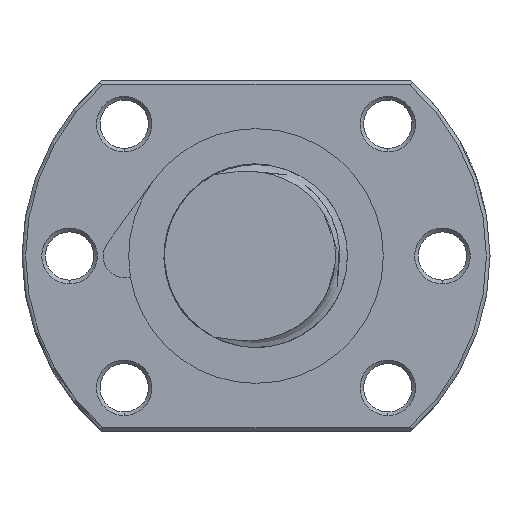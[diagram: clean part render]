
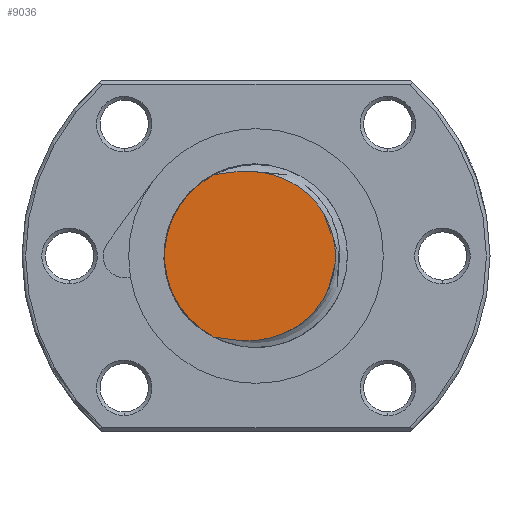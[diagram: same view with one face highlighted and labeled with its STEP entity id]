
A CAD part, left-side view. The second image highlights one B-rep face of the part: STEP entity #9036.
In plain terms, the highlighted planar face has unit normal (-1, 0, 0).
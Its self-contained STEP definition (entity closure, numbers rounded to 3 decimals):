
#8753 = EDGE_CURVE ( 'NONE', #8982, #8976, #16914, .T. ) ;
#8976 = VERTEX_POINT ( 'NONE', #18925 ) ;
#8982 = VERTEX_POINT ( 'NONE', #19309 ) ;
#9036 = ADVANCED_FACE ( 'NONE', ( #19601 ), #19598, .F. ) ;
#9037 = EDGE_LOOP ( 'NONE', ( #9038, #9039 ) ) ;
#9038 = ORIENTED_EDGE ( 'NONE', *, *, #8753, .F. ) ;
#9039 = ORIENTED_EDGE ( 'NONE', *, *, #9040, .T. ) ;
#9040 = EDGE_CURVE ( 'NONE', #8982, #8976, #19639, .T. ) ;
#16910 = DIRECTION ( 'NONE',  ( 0., 1., 0. ) ) ;
#16911 = DIRECTION ( 'NONE',  ( 1., 0., 0. ) ) ;
#16912 = CARTESIAN_POINT ( 'NONE',  ( -75., 0., 0. ) ) ;
#16913 = AXIS2_PLACEMENT_3D ( 'NONE', #16912, #16911, #16910 ) ;
#16914 = CIRCLE ( 'NONE', #16913, 12.5 ) ;
#18925 = CARTESIAN_POINT ( 'NONE',  ( -75., 5.78, 11.084 ) ) ;
#19309 = CARTESIAN_POINT ( 'NONE',  ( -75., 5.782, -11.082 ) ) ;
#19484 = CARTESIAN_POINT ( 'NONE',  ( -75., 5.78, 11.084 ) ) ;
#19485 = CARTESIAN_POINT ( 'NONE',  ( -75., 5.538, 11.102 ) ) ;
#19486 = CARTESIAN_POINT ( 'NONE',  ( -75., 5.3, 11.145 ) ) ;
#19487 = CARTESIAN_POINT ( 'NONE',  ( -75., 4.823, 11.228 ) ) ;
#19488 = CARTESIAN_POINT ( 'NONE',  ( -75., 4.585, 11.271 ) ) ;
#19489 = CARTESIAN_POINT ( 'NONE',  ( -75., 3.87, 11.394 ) ) ;
#19490 = CARTESIAN_POINT ( 'NONE',  ( -75., 3.392, 11.466 ) ) ;
#19491 = CARTESIAN_POINT ( 'NONE',  ( -75., 1.955, 11.617 ) ) ;
#19492 = CARTESIAN_POINT ( 'NONE',  ( -75., 0.992, 11.636 ) ) ;
#19493 = CARTESIAN_POINT ( 'NONE',  ( -75., -0.463, 11.502 ) ) ;
#19494 = CARTESIAN_POINT ( 'NONE',  ( -75., -0.945, 11.431 ) ) ;
#19495 = CARTESIAN_POINT ( 'NONE',  ( -75., -1.891, 11.234 ) ) ;
#19496 = CARTESIAN_POINT ( 'NONE',  ( -75., -2.357, 11.108 ) ) ;
#19497 = CARTESIAN_POINT ( 'NONE',  ( -75., -3.274, 10.804 ) ) ;
#19498 = CARTESIAN_POINT ( 'NONE',  ( -75., -3.727, 10.624 ) ) ;
#19499 = CARTESIAN_POINT ( 'NONE',  ( -75., -4.609, 10.209 ) ) ;
#19500 = CARTESIAN_POINT ( 'NONE',  ( -75., -5.034, 9.978 ) ) ;
#19501 = CARTESIAN_POINT ( 'NONE',  ( -75., -5.851, 9.465 ) ) ;
#19502 = CARTESIAN_POINT ( 'NONE',  ( -75., -6.243, 9.184 ) ) ;
#19503 = CARTESIAN_POINT ( 'NONE',  ( -75., -6.994, 8.572 ) ) ;
#19504 = CARTESIAN_POINT ( 'NONE',  ( -75., -7.354, 8.238 ) ) ;
#19505 = CARTESIAN_POINT ( 'NONE',  ( -75., -8.359, 7.186 ) ) ;
#19506 = CARTESIAN_POINT ( 'NONE',  ( -75., -8.934, 6.413 ) ) ;
#19507 = CARTESIAN_POINT ( 'NONE',  ( -75., -9.648, 5.138 ) ) ;
#19508 = CARTESIAN_POINT ( 'NONE',  ( -75., -9.859, 4.697 ) ) ;
#19509 = CARTESIAN_POINT ( 'NONE',  ( -75., -10.22, 3.8 ) ) ;
#19510 = CARTESIAN_POINT ( 'NONE',  ( -75., -10.371, 3.342 ) ) ;
#19511 = CARTESIAN_POINT ( 'NONE',  ( -75., -10.616, 2.408 ) ) ;
#19512 = CARTESIAN_POINT ( 'NONE',  ( -75., -10.71, 1.928 ) ) ;
#19513 = CARTESIAN_POINT ( 'NONE',  ( -75., -10.835, 0.962 ) ) ;
#19514 = CARTESIAN_POINT ( 'NONE',  ( -75., -10.866, 0.479 ) ) ;
#19515 = CARTESIAN_POINT ( 'NONE',  ( -75., -10.865, -0.485 ) ) ;
#19516 = CARTESIAN_POINT ( 'NONE',  ( -75., -10.834, -0.966 ) ) ;
#19517 = CARTESIAN_POINT ( 'NONE',  ( -75., -10.709, -1.928 ) ) ;
#19518 = CARTESIAN_POINT ( 'NONE',  ( -75., -10.616, -2.41 ) ) ;
#19519 = CARTESIAN_POINT ( 'NONE',  ( -75., -10.248, -3.815 ) ) ;
#19520 = CARTESIAN_POINT ( 'NONE',  ( -75., -9.888, -4.709 ) ) ;
#19521 = CARTESIAN_POINT ( 'NONE',  ( -75., -9.173, -5.984 ) ) ;
#19522 = CARTESIAN_POINT ( 'NONE',  ( -75., -8.908, -6.394 ) ) ;
#19523 = CARTESIAN_POINT ( 'NONE',  ( -75., -8.333, -7.169 ) ) ;
#19587 = DIRECTION ( 'NONE',  ( 0., 0., -1. ) ) ;
#19588 = DIRECTION ( 'NONE',  ( 1., 0., 0. ) ) ;
#19597 = CARTESIAN_POINT ( 'NONE',  ( -75., 0., 0. ) ) ;
#19598 = PLANE ( 'NONE',  #19600 ) ;
#19600 = AXIS2_PLACEMENT_3D ( 'NONE', #19597, #19588, #19587 ) ;
#19601 = FACE_OUTER_BOUND ( 'NONE', #9037, .T. ) ;
#19619 = CARTESIAN_POINT ( 'NONE',  ( -75., -8.024, -7.538 ) ) ;
#19620 = CARTESIAN_POINT ( 'NONE',  ( -75., -7.359, -8.236 ) ) ;
#19621 = CARTESIAN_POINT ( 'NONE',  ( -75., -7.003, -8.566 ) ) ;
#19622 = CARTESIAN_POINT ( 'NONE',  ( -75., -6.245, -9.183 ) ) ;
#19623 = CARTESIAN_POINT ( 'NONE',  ( -75., -5.851, -9.464 ) ) ;
#19624 = CARTESIAN_POINT ( 'NONE',  ( -75., -4.628, -10.231 ) ) ;
#19625 = CARTESIAN_POINT ( 'NONE',  ( -75., -3.758, -10.642 ) ) ;
#19626 = CARTESIAN_POINT ( 'NONE',  ( -75., -1.907, -11.261 ) ) ;
#19627 = CARTESIAN_POINT ( 'NONE',  ( -75., -0.961, -11.453 ) ) ;
#19628 = CARTESIAN_POINT ( 'NONE',  ( -75., 0.477, -11.589 ) ) ;
#19629 = CARTESIAN_POINT ( 'NONE',  ( -75., 0.959, -11.608 ) ) ;
#19630 = CARTESIAN_POINT ( 'NONE',  ( -75., 1.932, -11.599 ) ) ;
#19631 = CARTESIAN_POINT ( 'NONE',  ( -75., 2.419, -11.569 ) ) ;
#19632 = CARTESIAN_POINT ( 'NONE',  ( -75., 3.385, -11.468 ) ) ;
#19633 = CARTESIAN_POINT ( 'NONE',  ( -75., 3.865, -11.396 ) ) ;
#19634 = CARTESIAN_POINT ( 'NONE',  ( -75., 4.583, -11.271 ) ) ;
#19635 = CARTESIAN_POINT ( 'NONE',  ( -75., 4.822, -11.227 ) ) ;
#19636 = CARTESIAN_POINT ( 'NONE',  ( -75., 5.301, -11.143 ) ) ;
#19637 = CARTESIAN_POINT ( 'NONE',  ( -75., 5.54, -11.101 ) ) ;
#19638 = CARTESIAN_POINT ( 'NONE',  ( -75., 5.782, -11.082 ) ) ;
#19639 = B_SPLINE_CURVE_WITH_KNOTS ( 'NONE', 3,
 ( #19638, #19637, #19636, #19635, #19634, #19633, #19632, #19631, #19630, #19629, #19628, #19627, #19626, #19625, #19624, #19623, #19622, #19621, #19620, #19619, #19523, #19522, #19521, #19520, #19519, #19518, #19517, #19516, #19515, #19514, #19513, #19512, #19511, #19510, #19509, #19508, #19507, #19506, #19505, #19504, #19503, #19502, #19501, #19500, #19499, #19498, #19497, #19496, #19495, #19494, #19493, #19492, #19491, #19490, #19489, #19488, #19487, #19486, #19485, #19484 ),
 .UNSPECIFIED., .F., .F.,
 ( 4, 2, 2, 2, 2, 2, 2, 2, 2, 2, 2, 2, 2, 2, 2, 2, 2, 2, 2, 2, 2, 2, 2, 2, 2, 2, 2, 2, 2, 4 ),
 ( 0.003, 0.003, 0.004, 0.006, 0.007, 0.008, 0.011, 0.014, 0.016, 0.017, 0.019, 0.02, 0.023, 0.025, 0.026, 0.027, 0.029, 0.03, 0.032, 0.035, 0.036, 0.038, 0.039, 0.041, 0.042, 0.044, 0.046, 0.048, 0.049, 0.049 ),
 .UNSPECIFIED. ) ;
